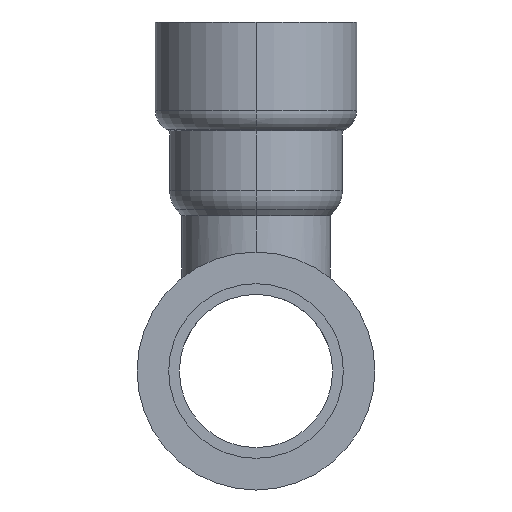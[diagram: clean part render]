
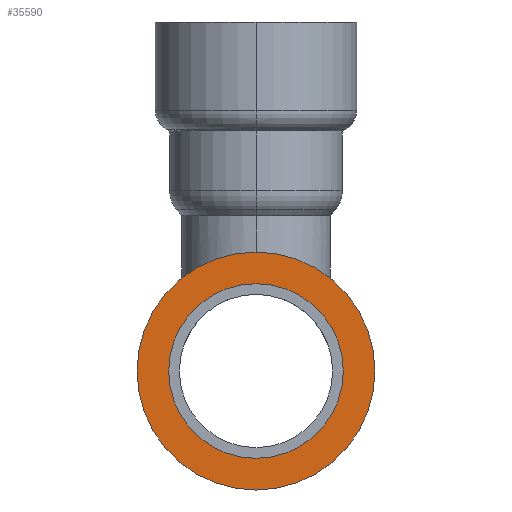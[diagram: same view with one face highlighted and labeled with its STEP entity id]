
A CAD part, left-side view. The second image highlights one B-rep face of the part: STEP entity #35590.
In plain terms, the highlighted planar face has unit normal (-1, 0, 0).
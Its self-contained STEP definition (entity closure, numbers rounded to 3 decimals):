
#35240=CARTESIAN_POINT('',(22.914,57.963,0.)
);
#35250=DIRECTION('',(-1.,-0.,0.));
#35260=DIRECTION('',(0.,-1.,0.));
#35270=AXIS2_PLACEMENT_3D('',#35240,#35250,#35260);
#35280=PLANE('',#35270);
#35290=CARTESIAN_POINT('',(22.914,39.288,0.));
#35300=DIRECTION('',(-1.,0.,0.));
#35310=DIRECTION('',(0.,1.,0.));
#35320=AXIS2_PLACEMENT_3D('',#35290,#35300,#35310);
#35330=CIRCLE('',#35320,13.9);
#35340=CARTESIAN_POINT('',(22.914,53.188,0.)
);
#35350=VERTEX_POINT('',#35340);
#35360=CARTESIAN_POINT('',(22.914,25.388,0.
));
#35370=VERTEX_POINT('',#35360);
#35380=EDGE_CURVE('',#35350,#35370,#35330,.T.);
#35390=ORIENTED_EDGE('',*,*,#35380,.F.);
#35400=EDGE_CURVE('',#35370,#35350,#35330,.T.);
#35410=ORIENTED_EDGE('',*,*,#35400,.F.);
#35420=EDGE_LOOP('',(#35410,#35390));
#35430=FACE_BOUND('',#35420,.T.);
#35440=CARTESIAN_POINT('',(22.914,39.288,0.));
#35450=DIRECTION('',(1.,0.,0.));
#35460=DIRECTION('',(0.,1.,0.));
#35470=AXIS2_PLACEMENT_3D('',#35440,#35450,#35460);
#35480=CIRCLE('',#35470,18.95);
#35490=CARTESIAN_POINT('',(22.914,58.238,0.)
);
#35500=VERTEX_POINT('',#35490);
#35510=CARTESIAN_POINT('',(22.914,20.338,0.
));
#35520=VERTEX_POINT('',#35510);
#35530=EDGE_CURVE('',#35500,#35520,#35480,.T.);
#35540=ORIENTED_EDGE('',*,*,#35530,.F.);
#35550=EDGE_CURVE('',#35520,#35500,#35480,.T.);
#35560=ORIENTED_EDGE('',*,*,#35550,.F.);
#35570=EDGE_LOOP('',(#35560,#35540));
#35580=FACE_OUTER_BOUND('',#35570,.T.);
#35590=ADVANCED_FACE('',(#35430,#35580),#35280,.T.);
